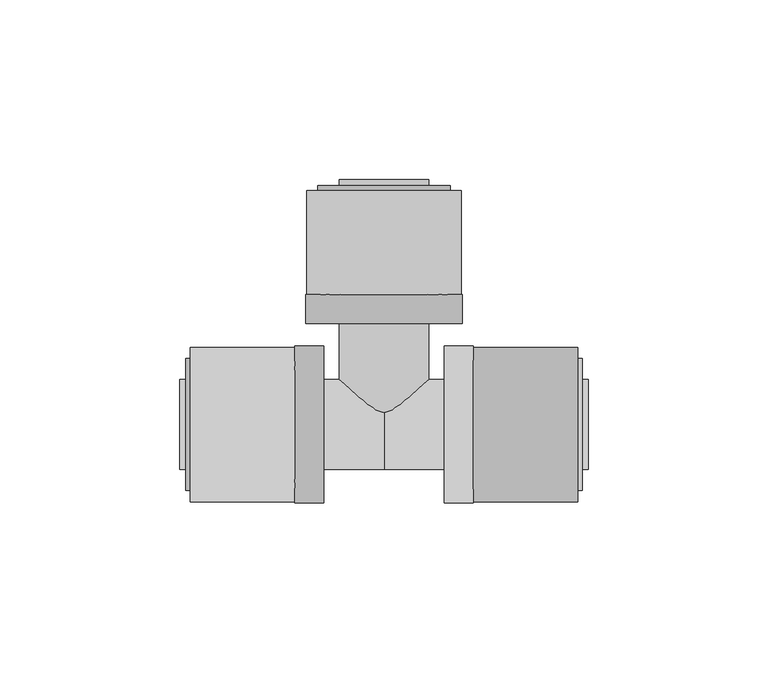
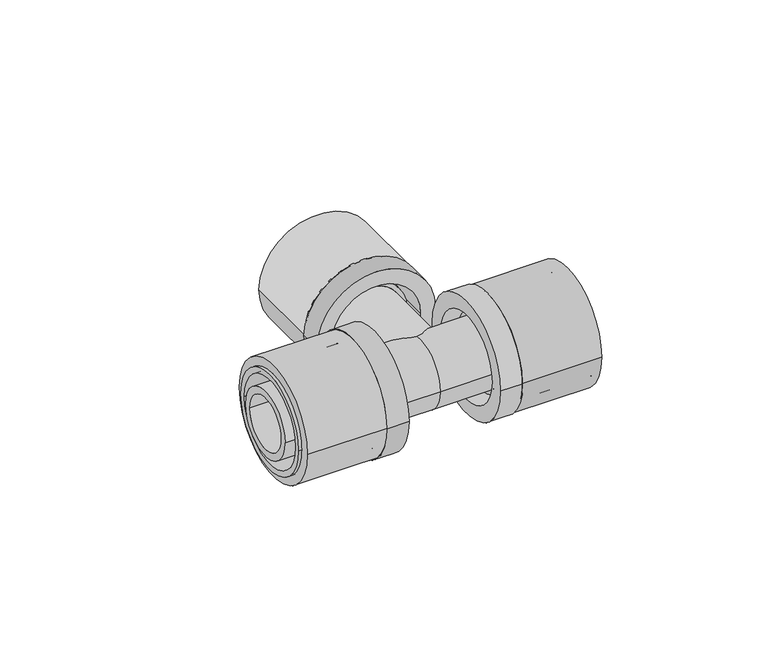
"""IFC4 building model written with IfcOpenShell, lengths in millimetres: pipe fitting geometry, FASTLOC_T-piece_LX : FSL T-Piece LX CZ."""

from ifc_helpers import new_model, si_unit, point, frame, origin, origin_2d, place, context, project, spatial, polyline, circle_curve, trimmed, segment, composite_curve, outline, extrude, source, transform, mapped, element, save
from ifc_brep_helpers import plane_surface, cylinder_surface, revolved_surface, advanced_brep


def pipe_fitting_29102c59(model_context):
    return source(origin(), model_context, "Body", "SolidModel", [
        extrude(outline(composite_curve([segment(trimmed(circle_curve(origin_2d(), 21.5), [point((-21.5, 0.0))], [point((21.5, 0.0))], False, "CARTESIAN"), True, "CONTINUOUS"), segment(trimmed(circle_curve(origin_2d(), 21.5), [point((21.5, 0.0))], [point((-21.5, 0.0))], False, "CARTESIAN"), True, "CONTINUOUS")], self_intersect=False), holes=[composite_curve([segment(trimmed(circle_curve(origin_2d(), 16.85), [point((-16.85, 0.0))], [point((16.85, 0.0))], True, "CARTESIAN"), True, "CONTINUOUS"), segment(trimmed(circle_curve(origin_2d(), 16.85), [point((16.85, 0.0))], [point((-16.85, 0.0))], True, "CARTESIAN"), True, "CONTINUOUS")], self_intersect=False)]), frame((24.8, 0.0, 0.0), z_axis=(1.0, 0.0, 0.0), x_axis=(0.0, 1.0, 0.0)), (0.0, 0.0, 1.0), 29.0),
        advanced_brep(
        [(24.8, 21.8, 0.0), (24.8, -21.8, 0.0), (16.8, -21.8, 0.0), (16.8, 21.8, 0.0), (55.1, 18.35, 0.0), (55.1, -18.35, 0.0), (24.8, -18.35, 0.0), (24.8, 18.35, 0.0), (16.8, 16.2, 0.0), (16.8, -16.2, 0.0), (55.1, -16.2, 0.0), (55.1, 16.2, 0.0)],
        [
            (0, 1, circle_curve(frame((24.8, 0.0, 0.0), z_axis=(-1.0, 0.0, 0.0), x_axis=(0.0, -1.0, 0.0)), 21.8)),
            (1, 2),
            (2, 3, circle_curve(frame((16.8, 0.0, 0.0), z_axis=(1.0, 0.0, 0.0), x_axis=(0.0, -1.0, 0.0)), 21.8)),
            (3, 0),
            (4, 5, circle_curve(frame((55.1, 0.0, 0.0), z_axis=(-1.0, 0.0, 0.0), x_axis=(0.0, -1.0, 0.0)), 18.35)),
            (5, 6),
            (6, 7, circle_curve(frame((24.8, 0.0, 0.0), z_axis=(1.0, 0.0, 0.0), x_axis=(0.0, -1.0, 0.0)), 18.35)),
            (7, 4),
            (8, 9, circle_curve(frame((16.8, 0.0, 0.0), z_axis=(-1.0, 0.0, 0.0), x_axis=(0.0, -1.0, 0.0)), 16.2)),
            (9, 10),
            (10, 11, circle_curve(frame((55.1, 0.0, 0.0), z_axis=(1.0, 0.0, 0.0), x_axis=(0.0, -1.0, 0.0)), 16.2)),
            (11, 8),
            (1, 0, circle_curve(frame((24.8, 0.0, 0.0), z_axis=(-1.0, 0.0, 0.0), x_axis=(0.0, 1.0, 0.0)), 21.8)),
            (3, 2, circle_curve(frame((16.8, 0.0, 0.0), z_axis=(1.0, 0.0, 0.0), x_axis=(0.0, 1.0, 0.0)), 21.8)),
            (6, 7, circle_curve(frame((24.8, 0.0, 0.0), z_axis=(-1.0, 0.0, 0.0), x_axis=(0.0, 1.0, 0.0)), 18.35)),
            (5, 4, circle_curve(frame((55.1, 0.0, 0.0), z_axis=(-1.0, 0.0, 0.0), x_axis=(0.0, 1.0, 0.0)), 18.35)),
            (10, 11, circle_curve(frame((55.1, 0.0, 0.0), z_axis=(-1.0, 0.0, 0.0), x_axis=(0.0, 1.0, 0.0)), 16.2)),
            (9, 8, circle_curve(frame((16.8, 0.0, 0.0), z_axis=(-1.0, 0.0, 0.0), x_axis=(0.0, 1.0, 0.0)), 16.2)),
        ],
        [
            cylinder_surface(frame((16.8, 0.0, 0.0), z_axis=(1.0, 0.0, 0.0), x_axis=(0.0, -1.0, 0.0)), 21.8),
            cylinder_surface(frame((16.8, 0.0, 0.0), z_axis=(1.0, 0.0, 0.0), x_axis=(0.0, -1.0, 0.0)), 18.35),
            revolved_surface(polyline([(55.099999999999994, -16.2, 0.0), (16.8, -16.2, 0.0)]), (16.8, 0.0, 0.0), (1.0, 0.0, 0.0)),
            cylinder_surface(frame((16.8, 0.0, 0.0), z_axis=(1.0, 0.0, 0.0), x_axis=(0.0, 1.0, 0.0)), 21.8),
            plane_surface(frame((24.8, 0.0, 0.0), z_axis=(1.0, 0.0, 0.0), x_axis=(0.0, 1.0, 0.0))),
            cylinder_surface(frame((16.8, 0.0, 0.0), z_axis=(1.0, 0.0, 0.0), x_axis=(0.0, 1.0, 0.0)), 18.35),
            plane_surface(frame((55.1, 0.0, 0.0), z_axis=(1.0, 0.0, 0.0), x_axis=(0.0, 1.0, 0.0))),
            revolved_surface(polyline([(55.099999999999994, 16.2, 0.0), (16.8, 16.2, 0.0)]), (16.8, 0.0, 0.0), (1.0, 0.0, 0.0)),
            plane_surface(frame((16.8, 0.0, 0.0), z_axis=(-1.0, 0.0, 0.0), x_axis=(0.0, 1.0, 0.0))),
        ],
        [
            (0, [[1, 2, 3, 4]]),
            (1, [[5, 6, 7, 8]]),
            (2, [[9, 10, 11, 12]]),
            (3, [[13, -4, 14, -2]]),
            (4, [[-13, -1], [15, -7]]),
            (5, [[16, -8, -15, -6]]),
            (6, [[-16, -5], [17, -11]]),
            (7, [[18, -12, -17, -10]]),
            (8, [[-14, -3], [-18, -9]]),
        ],
    ),
        extrude(outline(composite_curve([segment(trimmed(circle_curve(origin_2d(), 21.5), [point((21.5, 0.0))], [point((-21.5, 0.0))], False, "CARTESIAN"), True, "CONTINUOUS"), segment(trimmed(circle_curve(origin_2d(), 21.5), [point((-21.5, 0.0))], [point((21.5, 0.0))], False, "CARTESIAN"), True, "CONTINUOUS")], self_intersect=False), holes=[composite_curve([segment(trimmed(circle_curve(origin_2d(), 16.85), [point((16.85, 0.0))], [point((-16.85, 0.0))], True, "CARTESIAN"), True, "CONTINUOUS"), segment(trimmed(circle_curve(origin_2d(), 16.85), [point((-16.85, 0.0))], [point((16.85, 0.0))], True, "CARTESIAN"), True, "CONTINUOUS")], self_intersect=False)]), frame((-53.8, 0.0, 0.0), z_axis=(1.0, 0.0, 0.0), x_axis=(0.0, 1.0, 0.0)), (0.0, 0.0, 1.0), 29.0),
        advanced_brep(
        [(-24.8, -21.8, 0.0), (-24.8, 21.8, 0.0), (-16.8, 21.8, 0.0), (-16.8, -21.8, 0.0), (-55.1, -18.35, 0.0), (-55.1, 18.35, 0.0), (-24.8, 18.35, 0.0), (-24.8, -18.35, 0.0), (-16.8, -16.2, 0.0), (-16.8, 16.2, 0.0), (-55.1, 16.2, 0.0), (-55.1, -16.2, 0.0)],
        [
            (0, 1, circle_curve(frame((-24.8, 0.0, 0.0), z_axis=(1.0, 0.0, 0.0), x_axis=(0.0, 1.0, 0.0)), 21.8)),
            (1, 2),
            (2, 3, circle_curve(frame((-16.8, 0.0, 0.0), z_axis=(-1.0, 0.0, 0.0), x_axis=(0.0, 1.0, 0.0)), 21.8)),
            (3, 0),
            (4, 5, circle_curve(frame((-55.1, 0.0, 0.0), z_axis=(1.0, 0.0, 0.0), x_axis=(0.0, 1.0, 0.0)), 18.35)),
            (5, 6),
            (6, 7, circle_curve(frame((-24.8, 0.0, 0.0), z_axis=(-1.0, 0.0, 0.0), x_axis=(0.0, 1.0, 0.0)), 18.35)),
            (7, 4),
            (8, 9, circle_curve(frame((-16.8, 0.0, 0.0), z_axis=(1.0, 0.0, 0.0), x_axis=(0.0, 1.0, 0.0)), 16.2)),
            (9, 10),
            (10, 11, circle_curve(frame((-55.1, 0.0, 0.0), z_axis=(-1.0, 0.0, 0.0), x_axis=(0.0, 1.0, 0.0)), 16.2)),
            (11, 8),
            (1, 0, circle_curve(frame((-24.8, 0.0, 0.0), z_axis=(1.0, 0.0, 0.0), x_axis=(0.0, -1.0, 0.0)), 21.8)),
            (3, 2, circle_curve(frame((-16.8, 0.0, 0.0), z_axis=(-1.0, 0.0, 0.0), x_axis=(0.0, -1.0, 0.0)), 21.8)),
            (6, 7, circle_curve(frame((-24.8, 0.0, 0.0), z_axis=(1.0, 0.0, 0.0), x_axis=(0.0, -1.0, 0.0)), 18.35)),
            (5, 4, circle_curve(frame((-55.1, 0.0, 0.0), z_axis=(1.0, 0.0, 0.0), x_axis=(0.0, -1.0, 0.0)), 18.35)),
            (10, 11, circle_curve(frame((-55.1, 0.0, 0.0), z_axis=(1.0, 0.0, 0.0), x_axis=(0.0, -1.0, 0.0)), 16.2)),
            (9, 8, circle_curve(frame((-16.8, 0.0, 0.0), z_axis=(1.0, 0.0, 0.0), x_axis=(0.0, -1.0, 0.0)), 16.2)),
        ],
        [
            cylinder_surface(frame((-16.8, 0.0, 0.0), z_axis=(-1.0, 0.0, 0.0), x_axis=(0.0, 1.0, 0.0)), 21.8),
            cylinder_surface(frame((-16.8, 0.0, 0.0), z_axis=(-1.0, 0.0, 0.0), x_axis=(0.0, 1.0, 0.0)), 18.35),
            revolved_surface(polyline([(-55.099999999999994, 16.2, 0.0), (-16.8, 16.2, 0.0)]), (-16.8, 0.0, 0.0), (-1.0, 0.0, 0.0)),
            cylinder_surface(frame((-16.8, 0.0, 0.0), z_axis=(-1.0, 0.0, 0.0), x_axis=(0.0, -1.0, 0.0)), 21.8),
            plane_surface(frame((-24.8, 0.0, 0.0), z_axis=(-1.0, 0.0, 0.0), x_axis=(0.0, -1.0, 0.0))),
            cylinder_surface(frame((-16.8, 0.0, 0.0), z_axis=(-1.0, 0.0, 0.0), x_axis=(0.0, -1.0, 0.0)), 18.35),
            plane_surface(frame((-55.1, 0.0, 0.0), z_axis=(-1.0, 0.0, 0.0), x_axis=(0.0, -1.0, 0.0))),
            revolved_surface(polyline([(-55.099999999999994, -16.2, 0.0), (-16.8, -16.2, 0.0)]), (-16.8, 0.0, 0.0), (-1.0, 0.0, 0.0)),
            plane_surface(frame((-16.8, 0.0, 0.0), z_axis=(1.0, 0.0, 0.0), x_axis=(0.0, -1.0, 0.0))),
        ],
        [
            (0, [[1, 2, 3, 4]]),
            (1, [[5, 6, 7, 8]]),
            (2, [[9, 10, 11, 12]]),
            (3, [[13, -4, 14, -2]]),
            (4, [[-13, -1], [15, -7]]),
            (5, [[16, -8, -15, -6]]),
            (6, [[-16, -5], [17, -11]]),
            (7, [[18, -12, -17, -10]]),
            (8, [[-14, -3], [-18, -9]]),
        ],
    ),
        extrude(outline(composite_curve([segment(trimmed(circle_curve(origin_2d(), 21.5), [point((0.0, 21.5))], [point((0.0, -21.5))], False, "CARTESIAN"), True, "CONTINUOUS"), segment(trimmed(circle_curve(origin_2d(), 21.5), [point((0.0, -21.5))], [point((0.0, 21.5))], False, "CARTESIAN"), True, "CONTINUOUS")], self_intersect=False), holes=[composite_curve([segment(trimmed(circle_curve(origin_2d(), 16.85), [point((0.0, 16.85))], [point((0.0, -16.85))], True, "CARTESIAN"), True, "CONTINUOUS"), segment(trimmed(circle_curve(origin_2d(), 16.85), [point((0.0, -16.85))], [point((0.0, 16.85))], True, "CARTESIAN"), True, "CONTINUOUS")], self_intersect=False)]), frame((0.0, 36.1, 0.0), z_axis=(0.0, 1.0, 0.0), x_axis=(0.0, 0.0, 1.0)), (0.0, 0.0, 1.0), 29.0),
        advanced_brep(
        [(-21.8, 36.1, 0.0), (21.8, 36.1, 0.0), (21.8, 28.1, 0.0), (-21.8, 28.1, 0.0), (-18.35, 66.4, 0.0), (18.35, 66.4, 0.0), (18.35, 36.1, 0.0), (-18.35, 36.1, 0.0), (-16.2, 28.1, 0.0), (16.2, 28.1, 0.0), (16.2, 66.4, 0.0), (-16.2, 66.4, 0.0)],
        [
            (0, 1, circle_curve(frame((0.0, 36.1, 0.0), z_axis=(0.0, -1.0, 0.0), x_axis=(1.0, 0.0, 0.0)), 21.8)),
            (1, 2),
            (2, 3, circle_curve(frame((0.0, 28.1, 0.0), z_axis=(0.0, 1.0, 0.0), x_axis=(1.0, 0.0, 0.0)), 21.8)),
            (3, 0),
            (4, 5, circle_curve(frame((0.0, 66.4, 0.0), z_axis=(0.0, -1.0, 0.0), x_axis=(1.0, 0.0, 0.0)), 18.35)),
            (5, 6),
            (6, 7, circle_curve(frame((0.0, 36.1, 0.0), z_axis=(0.0, 1.0, 0.0), x_axis=(1.0, 0.0, 0.0)), 18.35)),
            (7, 4),
            (8, 9, circle_curve(frame((0.0, 28.1, 0.0), z_axis=(0.0, -1.0, 0.0), x_axis=(1.0, 0.0, 0.0)), 16.2)),
            (9, 10),
            (10, 11, circle_curve(frame((0.0, 66.4, 0.0), z_axis=(0.0, 1.0, 0.0), x_axis=(1.0, 0.0, 0.0)), 16.2)),
            (11, 8),
            (1, 0, circle_curve(frame((0.0, 36.1, 0.0), z_axis=(0.0, -1.0, 0.0), x_axis=(-1.0, 0.0, 0.0)), 21.8)),
            (3, 2, circle_curve(frame((0.0, 28.1, 0.0), z_axis=(0.0, 1.0, 0.0), x_axis=(-1.0, 0.0, 0.0)), 21.8)),
            (6, 7, circle_curve(frame((0.0, 36.1, 0.0), z_axis=(0.0, -1.0, 0.0), x_axis=(-1.0, 0.0, 0.0)), 18.35)),
            (5, 4, circle_curve(frame((0.0, 66.4, 0.0), z_axis=(0.0, -1.0, 0.0), x_axis=(-1.0, 0.0, 0.0)), 18.35)),
            (10, 11, circle_curve(frame((0.0, 66.4, 0.0), z_axis=(0.0, -1.0, 0.0), x_axis=(-1.0, 0.0, 0.0)), 16.2)),
            (9, 8, circle_curve(frame((0.0, 28.1, 0.0), z_axis=(0.0, -1.0, 0.0), x_axis=(-1.0, 0.0, 0.0)), 16.2)),
        ],
        [
            cylinder_surface(frame((0.0, 28.1, 0.0), z_axis=(0.0, 1.0, 0.0), x_axis=(1.0, 0.0, 0.0)), 21.8),
            cylinder_surface(frame((0.0, 28.1, 0.0), z_axis=(0.0, 1.0, 0.0), x_axis=(1.0, 0.0, 0.0)), 18.35),
            revolved_surface(polyline([(16.2, 66.4, 0.0), (16.2, 28.1, 0.0)]), (0.0, 28.1, 0.0), (0.0, 1.0, 0.0)),
            cylinder_surface(frame((0.0, 28.1, 0.0), z_axis=(0.0, 1.0, 0.0), x_axis=(-1.0, 0.0, 0.0)), 21.8),
            plane_surface(frame((0.0, 36.1, 0.0), z_axis=(0.0, 1.0, 0.0), x_axis=(-1.0, 0.0, 0.0))),
            cylinder_surface(frame((0.0, 28.1, 0.0), z_axis=(0.0, 1.0, 0.0), x_axis=(-1.0, 0.0, 0.0)), 18.35),
            plane_surface(frame((0.0, 66.4, 0.0), z_axis=(0.0, 1.0, 0.0), x_axis=(-1.0, 0.0, 0.0))),
            revolved_surface(polyline([(-16.2, 66.4, 0.0), (-16.2, 28.1, 0.0)]), (0.0, 28.1, 0.0), (0.0, 1.0, 0.0)),
            plane_surface(frame((0.0, 28.1, 0.0), z_axis=(0.0, -1.0, 0.0), x_axis=(-1.0, 0.0, 0.0))),
        ],
        [
            (0, [[1, 2, 3, 4]]),
            (1, [[5, 6, 7, 8]]),
            (2, [[9, 10, 11, 12]]),
            (3, [[13, -4, 14, -2]]),
            (4, [[-13, -1], [15, -7]]),
            (5, [[16, -8, -15, -6]]),
            (6, [[-16, -5], [17, -11]]),
            (7, [[18, -12, -17, -10]]),
            (8, [[-14, -3], [-18, -9]]),
        ],
    ),
        advanced_brep(
        [(0.0, 12.5, 0.0), (0.0, -12.5, 0.0), (-21.8, -12.5, 0.0), (-21.8, 12.5, 0.0), (21.8, 12.5, 0.0), (21.8, -12.5, 0.0), (24.8, 14.1, 0.0), (24.8, -14.1, 0.0), (21.8, -14.1, 0.0), (21.8, 14.1, 0.0), (56.75, 12.5, 0.0), (56.75, -12.5, 0.0), (24.8, -12.5, 0.0), (24.8, 12.5, 0.0), (-24.8, 12.5, 0.0), (-24.8, -12.5, 0.0), (-56.75, -12.5, 0.0), (-56.75, 12.5, 0.0), (-21.8, 14.1, 0.0), (-21.8, -14.1, 0.0), (-24.8, -14.1, 0.0), (-24.8, 14.1, 0.0), (56.75, -9.85, 0.0), (56.75, 9.85, 0.0), (-56.75, 9.85, 0.0), (-56.75, -9.85, 0.0), (0.0, 9.85, 0.0), (0.0, -9.85, 0.0)],
        [
            (0, 1, circle_curve(frame((0.0, 0.0, 0.0), z_axis=(-1.0, 0.0, 0.0), x_axis=(0.0, -1.0, 0.0)), 12.5)),
            (1, 2),
            (2, 3, circle_curve(frame((-21.8, 0.0, 0.0), z_axis=(1.0, 0.0, 0.0), x_axis=(0.0, -1.0, 0.0)), 12.5)),
            (3, 0),
            (4, 5, circle_curve(frame((21.8, 0.0, 0.0), z_axis=(-1.0, 0.0, 0.0), x_axis=(0.0, -1.0, 0.0)), 12.5)),
            (5, 1),
            (0, 4),
            (6, 7, circle_curve(frame((24.8, 0.0, 0.0), z_axis=(-1.0, 0.0, 0.0), x_axis=(0.0, -1.0, 0.0)), 14.1)),
            (7, 8),
            (8, 9, circle_curve(frame((21.8, 0.0, 0.0), z_axis=(1.0, 0.0, 0.0), x_axis=(0.0, -1.0, 0.0)), 14.1)),
            (9, 6),
            (10, 11, circle_curve(frame((56.75, 0.0, 0.0), z_axis=(-1.0, 0.0, 0.0), x_axis=(0.0, -1.0, 0.0)), 12.5)),
            (11, 12),
            (12, 13, circle_curve(frame((24.8, 0.0, 0.0), z_axis=(1.0, 0.0, 0.0), x_axis=(0.0, -1.0, 0.0)), 12.5)),
            (13, 10),
            (14, 15, circle_curve(frame((-24.8, 0.0, 0.0), z_axis=(-1.0, 0.0, 0.0), x_axis=(0.0, -1.0, 0.0)), 12.5)),
            (15, 16),
            (16, 17, circle_curve(frame((-56.75, 0.0, 0.0), z_axis=(1.0, 0.0, 0.0), x_axis=(0.0, -1.0, 0.0)), 12.5)),
            (17, 14),
            (18, 19, circle_curve(frame((-21.8, 0.0, 0.0), z_axis=(-1.0, 0.0, 0.0), x_axis=(0.0, -1.0, 0.0)), 14.1)),
            (19, 20),
            (20, 21, circle_curve(frame((-24.8, 0.0, 0.0), z_axis=(1.0, 0.0, 0.0), x_axis=(0.0, -1.0, 0.0)), 14.1)),
            (21, 18),
            (18, 19, circle_curve(frame((-21.8, 0.0, 0.0), z_axis=(1.0, 0.0, 0.0), x_axis=(0.0, 1.0, 0.0)), 14.1)),
            (2, 3, circle_curve(frame((-21.8, 0.0, 0.0), z_axis=(-1.0, 0.0, 0.0), x_axis=(0.0, 1.0, 0.0)), 12.5)),
            (1, 0, circle_curve(frame((0.0, 0.0, 0.0), z_axis=(-1.0, 0.0, 0.0), x_axis=(0.0, 1.0, 0.0)), 12.5)),
            (5, 4, circle_curve(frame((21.8, 0.0, 0.0), z_axis=(-1.0, 0.0, 0.0), x_axis=(0.0, 1.0, 0.0)), 12.5)),
            (8, 9, circle_curve(frame((21.8, 0.0, 0.0), z_axis=(-1.0, 0.0, 0.0), x_axis=(0.0, 1.0, 0.0)), 14.1)),
            (7, 6, circle_curve(frame((24.8, 0.0, 0.0), z_axis=(-1.0, 0.0, 0.0), x_axis=(0.0, 1.0, 0.0)), 14.1)),
            (12, 13, circle_curve(frame((24.8, 0.0, 0.0), z_axis=(-1.0, 0.0, 0.0), x_axis=(0.0, 1.0, 0.0)), 12.5)),
            (11, 10, circle_curve(frame((56.75, 0.0, 0.0), z_axis=(-1.0, 0.0, 0.0), x_axis=(0.0, 1.0, 0.0)), 12.5)),
            (22, 23, circle_curve(frame((56.75, 0.0, 0.0), z_axis=(-1.0, 0.0, 0.0), x_axis=(0.0, 1.0, 0.0)), 9.85)),
            (23, 22, circle_curve(frame((56.75, 0.0, 0.0), z_axis=(-1.0, 0.0, 0.0), x_axis=(0.0, -1.0, 0.0)), 9.85)),
            (16, 17, circle_curve(frame((-56.75, 0.0, 0.0), z_axis=(-1.0, 0.0, 0.0), x_axis=(0.0, 1.0, 0.0)), 12.5)),
            (24, 25, circle_curve(frame((-56.75, 0.0, 0.0), z_axis=(1.0, 0.0, 0.0), x_axis=(0.0, 1.0, 0.0)), 9.85)),
            (25, 24, circle_curve(frame((-56.75, 0.0, 0.0), z_axis=(1.0, 0.0, 0.0), x_axis=(0.0, -1.0, 0.0)), 9.85)),
            (15, 14, circle_curve(frame((-24.8, 0.0, 0.0), z_axis=(-1.0, 0.0, 0.0), x_axis=(0.0, 1.0, 0.0)), 12.5)),
            (20, 21, circle_curve(frame((-24.8, 0.0, 0.0), z_axis=(-1.0, 0.0, 0.0), x_axis=(0.0, 1.0, 0.0)), 14.1)),
            (26, 27, circle_curve(frame((0.0, 0.0, 0.0), z_axis=(-1.0, 0.0, 0.0), x_axis=(0.0, -1.0, 0.0)), 9.85)),
            (27, 22),
            (23, 26),
            (25, 27),
            (26, 24),
            (27, 26, circle_curve(frame((0.0, 0.0, 0.0), z_axis=(-1.0, 0.0, 0.0), x_axis=(0.0, 1.0, 0.0)), 9.85)),
        ],
        [
            cylinder_surface(frame((0.0, 0.0, 0.0), z_axis=(1.0, 0.0, 0.0), x_axis=(0.0, -1.0, 0.0)), 12.5),
            cylinder_surface(frame((0.0, 0.0, 0.0), z_axis=(1.0, 0.0, 0.0), x_axis=(0.0, -1.0, 0.0)), 14.1),
            plane_surface(frame((-21.8, 0.0, 0.0), z_axis=(1.0, 0.0, 0.0), x_axis=(0.0, 1.0, 0.0))),
            cylinder_surface(frame((0.0, 0.0, 0.0), z_axis=(1.0, 0.0, 0.0), x_axis=(0.0, 1.0, 0.0)), 12.5),
            plane_surface(frame((21.8, 0.0, 0.0), z_axis=(-1.0, 0.0, 0.0), x_axis=(0.0, 1.0, 0.0))),
            cylinder_surface(frame((0.0, 0.0, 0.0), z_axis=(1.0, 0.0, 0.0), x_axis=(0.0, 1.0, 0.0)), 14.1),
            plane_surface(frame((24.8, 0.0, 0.0), z_axis=(1.0, 0.0, 0.0), x_axis=(0.0, 1.0, 0.0))),
            plane_surface(frame((56.75, 0.0, 0.0), z_axis=(1.0, 0.0, 0.0), x_axis=(0.0, 1.0, 0.0))),
            plane_surface(frame((-56.75, 0.0, 0.0), z_axis=(-1.0, 0.0, 0.0), x_axis=(0.0, 1.0, 0.0))),
            plane_surface(frame((-24.8, 0.0, 0.0), z_axis=(-1.0, 0.0, 0.0), x_axis=(0.0, 1.0, 0.0))),
            revolved_surface(polyline([(56.75, -9.85, 0.0), (0.0, -9.85, 0.0)]), (0.0, 0.0, 0.0), (1.0, 0.0, 0.0)),
            revolved_surface(polyline([(0.0, -9.85, 0.0), (-56.75, -9.85, 0.0)]), (0.0, 0.0, 0.0), (1.0, 0.0, 0.0)),
            revolved_surface(polyline([(56.75, 9.85, 0.0), (0.0, 9.85, 0.0)]), (0.0, 0.0, 0.0), (1.0, 0.0, 0.0)),
            revolved_surface(polyline([(0.0, 9.85, 0.0), (-56.75, 9.85, 0.0)]), (0.0, 0.0, 0.0), (1.0, 0.0, 0.0)),
        ],
        [
            (0, [[1, 2, 3, 4]]),
            (0, [[5, 6, -1, 7]]),
            (1, [[8, 9, 10, 11]]),
            (0, [[12, 13, 14, 15]]),
            (0, [[16, 17, 18, 19]]),
            (1, [[20, 21, 22, 23]]),
            (2, [[24, -20], [25, -3]]),
            (3, [[26, -4, -25, -2]]),
            (3, [[27, -7, -26, -6]]),
            (4, [[28, -10], [-27, -5]]),
            (5, [[29, -11, -28, -9]]),
            (6, [[-29, -8], [30, -14]]),
            (3, [[31, -15, -30, -13]]),
            (7, [[-31, -12], [32, 33]]),
            (8, [[34, -18], [35, 36]]),
            (3, [[37, -19, -34, -17]]),
            (9, [[38, -22], [-37, -16]]),
            (5, [[-24, -23, -38, -21]]),
            (10, [[39, 40, -33, 41]]),
            (11, [[-36, 42, -39, 43]]),
            (12, [[44, -41, -32, -40]]),
            (13, [[-35, -43, -44, -42]]),
        ],
    ),
        advanced_brep(
        [(9.85, 68.1, 0.0), (-9.85, 68.1, 0.0), (-9.85, 0.0, 0.0), (9.85, 0.0, 0.0), (12.5, 0.0, 0.0), (-12.5, 0.0, 0.0), (-12.5, 33.1, 0.0), (12.5, 33.1, 0.0), (14.1, 33.1, 0.0), (-14.1, 33.1, 0.0), (-14.1, 36.1, 0.0), (14.1, 36.1, 0.0), (12.5, 36.1, 0.0), (-12.5, 36.1, 0.0), (-12.5, 68.1, 0.0), (12.5, 68.1, 0.0)],
        [
            (0, 1, circle_curve(frame((0.0, 68.1, 0.0), z_axis=(0.0, 1.0, 0.0), x_axis=(-1.0, 0.0, 0.0)), 9.85)),
            (1, 2),
            (2, 3, circle_curve(frame((0.0, 0.0, 0.0), z_axis=(0.0, -1.0, 0.0), x_axis=(-1.0, 0.0, 0.0)), 9.85)),
            (3, 0),
            (4, 5, circle_curve(frame((0.0, 0.0, 0.0), z_axis=(0.0, 1.0, 0.0), x_axis=(-1.0, 0.0, 0.0)), 12.5)),
            (5, 6),
            (6, 7, circle_curve(frame((0.0, 33.1, 0.0), z_axis=(0.0, -1.0, 0.0), x_axis=(-1.0, 0.0, 0.0)), 12.5)),
            (7, 4),
            (8, 9, circle_curve(frame((0.0, 33.1, 0.0), z_axis=(0.0, 1.0, 0.0), x_axis=(-1.0, 0.0, 0.0)), 14.1)),
            (9, 10),
            (10, 11, circle_curve(frame((0.0, 36.1, 0.0), z_axis=(0.0, -1.0, 0.0), x_axis=(-1.0, 0.0, 0.0)), 14.1)),
            (11, 8),
            (12, 13, circle_curve(frame((0.0, 36.1, 0.0), z_axis=(0.0, 1.0, 0.0), x_axis=(-1.0, 0.0, 0.0)), 12.5)),
            (13, 14),
            (14, 15, circle_curve(frame((0.0, 68.1, 0.0), z_axis=(0.0, -1.0, 0.0), x_axis=(-1.0, 0.0, 0.0)), 12.5)),
            (15, 12),
            (1, 0, circle_curve(frame((0.0, 68.1, 0.0), z_axis=(0.0, 1.0, 0.0), x_axis=(1.0, 0.0, 0.0)), 9.85)),
            (3, 2, circle_curve(frame((0.0, 0.0, 0.0), z_axis=(0.0, -1.0, 0.0), x_axis=(1.0, 0.0, 0.0)), 9.85)),
            (4, 5, circle_curve(frame((0.0, 0.0, 0.0), z_axis=(0.0, -1.0, 0.0), x_axis=(1.0, 0.0, 0.0)), 12.5)),
            (7, 6, circle_curve(frame((0.0, 33.1, 0.0), z_axis=(0.0, -1.0, 0.0), x_axis=(1.0, 0.0, 0.0)), 12.5)),
            (8, 9, circle_curve(frame((0.0, 33.1, 0.0), z_axis=(0.0, -1.0, 0.0), x_axis=(1.0, 0.0, 0.0)), 14.1)),
            (11, 10, circle_curve(frame((0.0, 36.1, 0.0), z_axis=(0.0, -1.0, 0.0), x_axis=(1.0, 0.0, 0.0)), 14.1)),
            (12, 13, circle_curve(frame((0.0, 36.1, 0.0), z_axis=(0.0, -1.0, 0.0), x_axis=(1.0, 0.0, 0.0)), 12.5)),
            (15, 14, circle_curve(frame((0.0, 68.1, 0.0), z_axis=(0.0, -1.0, 0.0), x_axis=(1.0, 0.0, 0.0)), 12.5)),
        ],
        [
            revolved_surface(polyline([(-9.85, 0.0, 0.0), (-9.85, 68.1, 0.0)]), (0.0, 0.0, 0.0), (0.0, -1.0, 0.0)),
            cylinder_surface(frame((0.0, 0.0, 0.0), z_axis=(0.0, -1.0, 0.0), x_axis=(-1.0, 0.0, 0.0)), 12.5),
            cylinder_surface(frame((0.0, 0.0, 0.0), z_axis=(0.0, -1.0, 0.0), x_axis=(-1.0, 0.0, 0.0)), 14.1),
            revolved_surface(polyline([(9.85, 0.0, 0.0), (9.85, 68.1, 0.0)]), (0.0, 0.0, 0.0), (0.0, -1.0, 0.0)),
            plane_surface(frame((0.0, 0.0, 0.0), z_axis=(0.0, -1.0, 0.0), x_axis=(1.0, 0.0, 0.0))),
            cylinder_surface(frame((0.0, 0.0, 0.0), z_axis=(0.0, -1.0, 0.0), x_axis=(1.0, 0.0, 0.0)), 12.5),
            plane_surface(frame((0.0, 33.1, 0.0), z_axis=(0.0, -1.0, 0.0), x_axis=(1.0, 0.0, 0.0))),
            cylinder_surface(frame((0.0, 0.0, 0.0), z_axis=(0.0, -1.0, 0.0), x_axis=(1.0, 0.0, 0.0)), 14.1),
            plane_surface(frame((0.0, 36.1, 0.0), z_axis=(0.0, 1.0, 0.0), x_axis=(1.0, 0.0, 0.0))),
            plane_surface(frame((0.0, 68.1, 0.0), z_axis=(0.0, 1.0, 0.0), x_axis=(1.0, 0.0, 0.0))),
        ],
        [
            (0, [[1, 2, 3, 4]]),
            (1, [[5, 6, 7, 8]]),
            (2, [[9, 10, 11, 12]]),
            (1, [[13, 14, 15, 16]]),
            (3, [[17, -4, 18, -2]]),
            (4, [[19, -5], [-18, -3]]),
            (5, [[-19, -8, 20, -6]]),
            (6, [[21, -9], [-20, -7]]),
            (7, [[-21, -12, 22, -10]]),
            (8, [[-22, -11], [23, -13]]),
            (5, [[-23, -16, 24, -14]]),
            (9, [[-24, -15], [-17, -1]]),
        ],
    ),
    ])


if __name__ == "__main__":
    model = new_model("IFC4")
    model_context = context("Model", 3, world=origin())
    ifc_project = project(units=[si_unit("LENGTHUNIT", "METRE", prefix="MILLI")], contexts=[model_context])
    site = spatial("IfcSite", under=ifc_project)
    building = spatial("IfcBuilding", under=site)
    placement = place(None, origin())
    pipe_fitting_shape = pipe_fitting_29102c59(model_context)
    element("IfcPipeFitting", 1, ObjectType="FASTLOC_T-piece_LX : FSL T-Piece LX CZ", at=placement, inside=building, context=model_context, shape_type="MappedRepresentation", body=[
        mapped(pipe_fitting_shape, transform((0.0, 0.0, 0.0), x_axis=(1.0, 0.0, 0.0), y_axis=(0.0, 1.0, 0.0), z_axis=(0.0, 0.0, 1.0))),
    ])
    save(model, "model.ifc")
